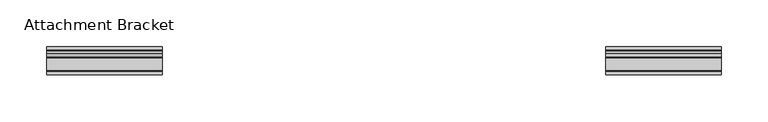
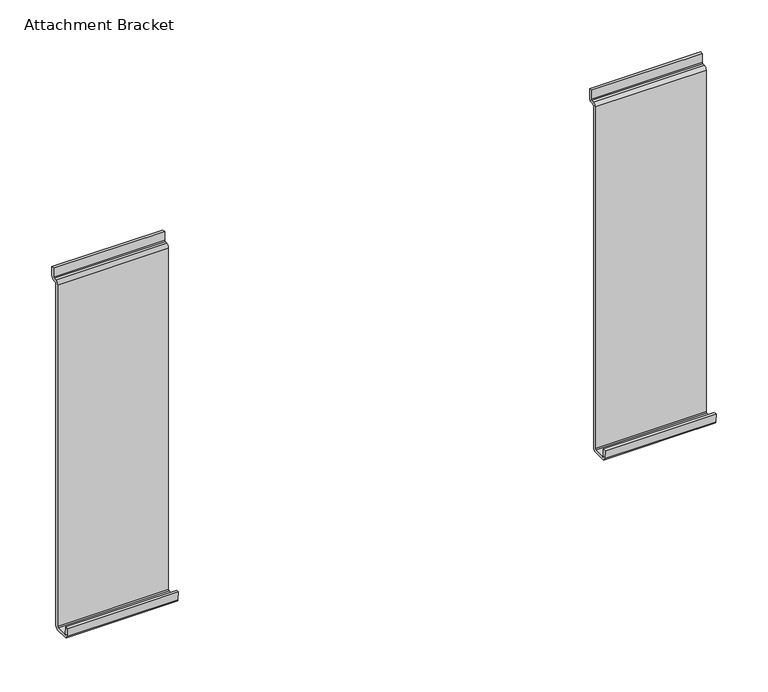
"""IFC4 building model written with IfcOpenShell, lengths in millimetres: furniture geometry, Steelcase Turnstone - Bivi - Storage - Trunk Support : Attachment Bracket."""

from ifc_helpers import new_model, si_unit, point, frame, frame_2d, origin, place, context, project, spatial, polyline, circle_curve, trimmed, segment, composite_curve, outline, extrude, source, transform, mapped, element, save


def attachment_bracket_46c987b0(model_context):
    return source(origin(), model_context, "Body", "SweptSolid", [
        extrude(outline(composite_curve([segment(polyline([(-17.1429464, 723.5290924), (-14.0969852, 723.5290924), (-14.0969852, 712.969207)]), True, "CONTINUOUS"), segment(trimmed(circle_curve(frame_2d((-17.8881861, 712.969207)), 3.7912008), [point((-14.0969852, 712.969207))], [point((-17.8881861, 709.1780062))], False, "CARTESIAN"), True, "CONTINUOUS"), segment(polyline([(-17.8881861, 709.1780062), (-20.9497867, 709.1780062)]), True, "CONTINUOUS"), segment(trimmed(circle_curve(frame_2d((-20.9497867, 708.4208071)), 0.7571991), [point((-20.9497867, 709.1780062))], [point((-21.7069858, 708.4208071))], True, "CARTESIAN"), True, "CONTINUOUS"), segment(polyline([(-21.7069858, 708.4208071), (-21.7069858, 307.0947573)]), True, "CONTINUOUS"), segment(trimmed(circle_curve(frame_2d((-25.388777, 307.0947573)), 3.6817911), [point((-21.7069858, 307.0947573))], [point((-25.388777, 303.4129662))], False, "CARTESIAN"), True, "CONTINUOUS"), segment(polyline([(-25.388777, 303.4129662), (-39.4413557, 303.4129662)]), True, "CONTINUOUS"), segment(trimmed(circle_curve(frame_2d((-39.4413557, 306.9741405)), 3.5611743), [point((-39.4413557, 303.4129662))], [point((-42.9889786, 306.6637637))], False, "CARTESIAN"), True, "CONTINUOUS"), segment(polyline([(-42.9889786, 306.6637637), (-43.812596, 316.0777532), (-40.7808834, 316.3429937), (-39.975016, 307.1318862)]), True, "CONTINUOUS"), segment(trimmed(circle_curve(frame_2d((-39.2317491, 307.1969137)), 0.746106), [point((-39.975016, 307.1318862))], [point((-39.2317491, 306.4508077))], True, "CARTESIAN"), True, "CONTINUOUS"), segment(polyline([(-39.2317491, 306.4508077), (-25.7530446, 306.4508077)]), True, "CONTINUOUS"), segment(trimmed(circle_curve(frame_2d((-25.7530446, 307.4592611)), 1.0084535), [point((-25.7530446, 306.4508077))], [point((-24.7445911, 307.4592611))], True, "CARTESIAN"), True, "CONTINUOUS"), segment(polyline([(-24.7445911, 307.4592611), (-24.7445911, 708.5848715)]), True, "CONTINUOUS"), segment(trimmed(circle_curve(frame_2d((-21.1135605, 708.5848715)), 3.6310307), [point((-24.7445911, 708.5848715))], [point((-21.1135605, 712.2159021))], False, "CARTESIAN"), True, "CONTINUOUS"), segment(polyline([(-21.1135605, 712.2159021), (-18.0567277, 712.2159021)]), True, "CONTINUOUS"), segment(trimmed(circle_curve(frame_2d((-18.0567277, 713.1296834)), 0.9137813), [point((-18.0567277, 712.2159021))], [point((-17.1429464, 713.1296834))], True, "CARTESIAN"), True, "CONTINUOUS"), segment(polyline([(-17.1429464, 713.1296834), (-17.1429464, 723.5290924)]), True, "CONTINUOUS")], self_intersect=False)), frame((401.9549571, 0.0, 0.0), z_axis=(1.0, 0.0, 0.0), x_axis=(0.0, 1.0, 0.0)), (0.0, 0.0, 1.0), 123.190155),
        extrude(outline(composite_curve([segment(polyline([(-17.1429464, 723.5290924), (-14.0969852, 723.5290924), (-14.0969852, 712.969207)]), True, "CONTINUOUS"), segment(trimmed(circle_curve(frame_2d((-17.8881861, 712.969207)), 3.7912008), [point((-14.0969852, 712.969207))], [point((-17.8881861, 709.1780062))], False, "CARTESIAN"), True, "CONTINUOUS"), segment(polyline([(-17.8881861, 709.1780062), (-20.9497867, 709.1780062)]), True, "CONTINUOUS"), segment(trimmed(circle_curve(frame_2d((-20.9497867, 708.4208071)), 0.7571991), [point((-20.9497867, 709.1780062))], [point((-21.7069858, 708.4208071))], True, "CARTESIAN"), True, "CONTINUOUS"), segment(polyline([(-21.7069858, 708.4208071), (-21.7069858, 307.0947573)]), True, "CONTINUOUS"), segment(trimmed(circle_curve(frame_2d((-25.388777, 307.0947573)), 3.6817911), [point((-21.7069858, 307.0947573))], [point((-25.388777, 303.4129662))], False, "CARTESIAN"), True, "CONTINUOUS"), segment(polyline([(-25.388777, 303.4129662), (-39.4413557, 303.4129662)]), True, "CONTINUOUS"), segment(trimmed(circle_curve(frame_2d((-39.4413557, 306.9741405)), 3.5611743), [point((-39.4413557, 303.4129662))], [point((-42.9889786, 306.6637637))], False, "CARTESIAN"), True, "CONTINUOUS"), segment(polyline([(-42.9889786, 306.6637637), (-43.812596, 316.0777532), (-40.7808834, 316.3429937), (-39.975016, 307.1318862)]), True, "CONTINUOUS"), segment(trimmed(circle_curve(frame_2d((-39.2317491, 307.1969137)), 0.746106), [point((-39.975016, 307.1318862))], [point((-39.2317491, 306.4508077))], True, "CARTESIAN"), True, "CONTINUOUS"), segment(polyline([(-39.2317491, 306.4508077), (-25.7530446, 306.4508077)]), True, "CONTINUOUS"), segment(trimmed(circle_curve(frame_2d((-25.7530446, 307.4592611)), 1.0084535), [point((-25.7530446, 306.4508077))], [point((-24.7445911, 307.4592611))], True, "CARTESIAN"), True, "CONTINUOUS"), segment(polyline([(-24.7445911, 307.4592611), (-24.7445911, 708.5848715)]), True, "CONTINUOUS"), segment(trimmed(circle_curve(frame_2d((-21.1135605, 708.5848715)), 3.6310307), [point((-24.7445911, 708.5848715))], [point((-21.1135605, 712.2159021))], False, "CARTESIAN"), True, "CONTINUOUS"), segment(polyline([(-21.1135605, 712.2159021), (-18.0567277, 712.2159021)]), True, "CONTINUOUS"), segment(trimmed(circle_curve(frame_2d((-18.0567277, 713.1296834)), 0.9137813), [point((-18.0567277, 712.2159021))], [point((-17.1429464, 713.1296834))], True, "CARTESIAN"), True, "CONTINUOUS"), segment(polyline([(-17.1429464, 713.1296834), (-17.1429464, 723.5290924)]), True, "CONTINUOUS")], self_intersect=False)), frame((998.8548879, 0.0, 0.0), z_axis=(1.0, 0.0, 0.0), x_axis=(0.0, 1.0, 0.0)), (0.0, 0.0, 1.0), 123.190155),
    ])


if __name__ == "__main__":
    model = new_model("IFC4")
    model_context = context("Model", 3, world=origin())
    ifc_project = project(units=[si_unit("LENGTHUNIT", "METRE", prefix="MILLI")], contexts=[model_context])
    site = spatial("IfcSite", under=ifc_project)
    building = spatial("IfcBuilding", under=site)
    placement = place(None, origin())
    attachment_bracket_shape = attachment_bracket_46c987b0(model_context)
    element("IfcFurniture", 1, ObjectType="Steelcase Turnstone - Bivi - Storage - Trunk Support : Attachment Bracket", at=placement, inside=building, context=model_context, shape_type="MappedRepresentation", body=[
        mapped(attachment_bracket_shape, transform((0.0, 0.0, 0.0), x_axis=(1.0, 0.0, 0.0), y_axis=(0.0, 1.0, 0.0), z_axis=(0.0, 0.0, 1.0))),
    ])
    save(model, "model.ifc")
